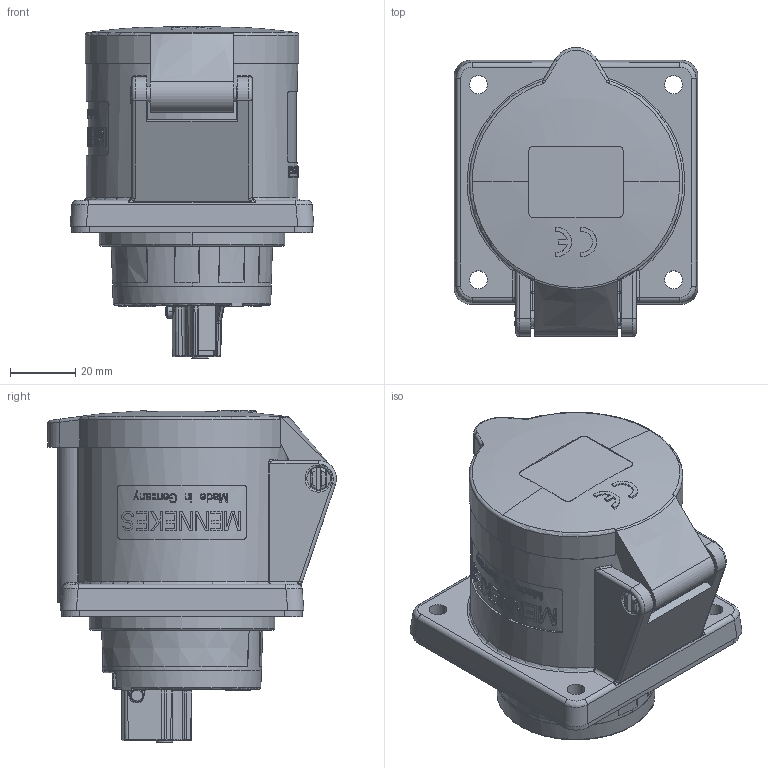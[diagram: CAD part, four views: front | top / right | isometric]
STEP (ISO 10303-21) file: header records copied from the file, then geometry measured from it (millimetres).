
FILE_DESCRIPTION((''),'2;1');
FILE_NAME('1399_DUMMY_SW0001','2017-11-02T',('gisse'),('MENNEKES'),'PRO/ENGINEER BY PARAMETRIC TECHNOLOGY CORPORATION, 2015440','PRO/ENGINEER BY PARAMETRIC TECHNOLOGY CORPORATION, 2015440','');
FILE_SCHEMA(('AUTOMOTIVE_DESIGN { 1 0 10303 214 1 1 1 1 }'));
Length unit declared in the file: millimetre
Products named in the file (1): 1399_DUMMY_SW0001
Bounding box: 75 x 88.85 x 102.11 mm (x, y, z)
Volume: 288238.6 mm3; surface area: 36978.5 mm2
Topology: 1 solids, 1 shells, 1742 faces, 4730 edges, 3075 vertices
Faces by surface type: plane 1294, cylinder 234, bspline 122, torus 52, cone 26, sphere 13, extrusion 1
Entity records: 95779 total; most frequent: CARTESIAN_POINT 19088, ORIENTED_EDGE 9456, DIRECTION 7507, PRESENTATION_STYLE_ASSIGNMENT 6428, STYLED_ITEM 4730, CURVE_STYLE 4729, EDGE_CURVE 4728, FILL_AREA_STYLE_COLOUR 3397
